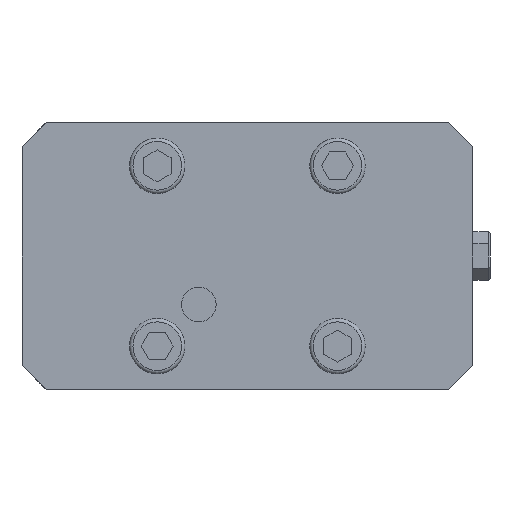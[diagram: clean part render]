
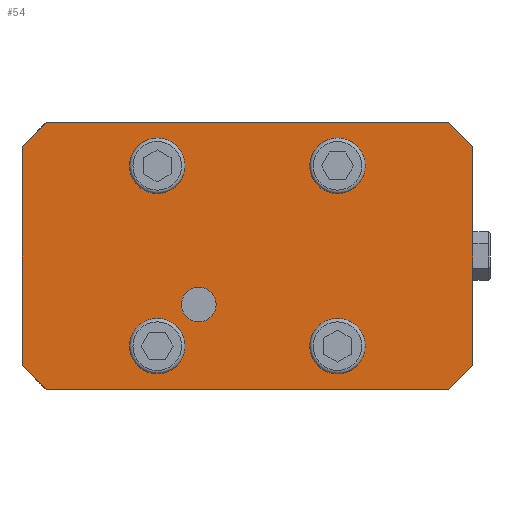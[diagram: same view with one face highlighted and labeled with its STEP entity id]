
A CAD part, front view. The second image highlights one B-rep face of the part: STEP entity #54.
In plain terms, the highlighted planar face has unit normal (0, -1, 0).
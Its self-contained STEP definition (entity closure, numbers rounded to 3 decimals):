
#54 = ADVANCED_FACE ( 'NONE', ( #11470, #10748, #26165, #22100, #25452, #40893 ), #4203, .F. ) ;
#139 = VECTOR ( 'NONE', #11990, 1000. ) ;
#286 = CARTESIAN_POINT ( 'NONE',  ( 26., 0., 26. ) ) ;
#665 = AXIS2_PLACEMENT_3D ( 'NONE', #22298, #33611, #7804 ) ;
#938 = CARTESIAN_POINT ( 'NONE',  ( 58., 0., -38.5 ) ) ;
#950 = LINE ( 'NONE', #22913, #2278 ) ;
#1012 = LINE ( 'NONE', #1742, #24178 ) ;
#1742 = CARTESIAN_POINT ( 'NONE',  ( -65., 0., -38.5 ) ) ;
#2007 = ORIENTED_EDGE ( 'NONE', *, *, #33238, .T. ) ;
#2242 = EDGE_CURVE ( 'NONE', #5586, #5586, #7780, .T. ) ;
#2278 = VECTOR ( 'NONE', #18301, 1000. ) ;
#3170 = AXIS2_PLACEMENT_3D ( 'NONE', #286, #40826, #30208 ) ;
#3189 = CARTESIAN_POINT ( 'NONE',  ( -14., 0., -14. ) ) ;
#3850 = CARTESIAN_POINT ( 'NONE',  ( 26., 0., -20. ) ) ;
#3961 = ORIENTED_EDGE ( 'NONE', *, *, #21288, .F. ) ;
#4203 = PLANE ( 'NONE',  #15996 ) ;
#4691 = DIRECTION ( 'NONE',  ( 0., 1., 0. ) ) ;
#5586 = VERTEX_POINT ( 'NONE', #13310 ) ;
#5761 = CARTESIAN_POINT ( 'NONE',  ( -58., 0., -38.5 ) ) ;
#5845 = CARTESIAN_POINT ( 'NONE',  ( -58., 0., -38.5 ) ) ;
#6061 = CARTESIAN_POINT ( 'NONE',  ( -58., 0., 38.5 ) ) ;
#6200 = EDGE_LOOP ( 'NONE', ( #11321 ) ) ;
#6696 = CARTESIAN_POINT ( 'NONE',  ( -58., 0., 38.5 ) ) ;
#7143 = ORIENTED_EDGE ( 'NONE', *, *, #36930, .T. ) ;
#7189 = CARTESIAN_POINT ( 'NONE',  ( 58., 0., 38.5 ) ) ;
#7780 = CIRCLE ( 'NONE', #3170, 6. ) ;
#7804 = DIRECTION ( 'NONE',  ( 1., 0., 0. ) ) ;
#8229 = EDGE_CURVE ( 'NONE', #19757, #40149, #35315, .T. ) ;
#9449 = VECTOR ( 'NONE', #28120, 1000. ) ;
#9683 = CARTESIAN_POINT ( 'NONE',  ( 65., 0., -38.5 ) ) ;
#9937 = DIRECTION ( 'NONE',  ( 0.707, 0., -0.707 ) ) ;
#10260 = AXIS2_PLACEMENT_3D ( 'NONE', #3189, #17878, #28999 ) ;
#10748 = FACE_BOUND ( 'NONE', #23388, .T. ) ;
#11110 = CARTESIAN_POINT ( 'NONE',  ( -14., 0., -19. ) ) ;
#11321 = ORIENTED_EDGE ( 'NONE', *, *, #19137, .F. ) ;
#11470 = FACE_BOUND ( 'NONE', #33345, .T. ) ;
#11533 = ORIENTED_EDGE ( 'NONE', *, *, #2242, .F. ) ;
#11990 = DIRECTION ( 'NONE',  ( 0., 0., -1. ) ) ;
#12093 = EDGE_CURVE ( 'NONE', #25391, #38704, #13783, .T. ) ;
#12417 = EDGE_CURVE ( 'NONE', #18684, #40149, #29773, .T. ) ;
#12678 = ORIENTED_EDGE ( 'NONE', *, *, #8229, .T. ) ;
#13310 = CARTESIAN_POINT ( 'NONE',  ( 20., 0., 26. ) ) ;
#13783 = LINE ( 'NONE', #43201, #45875 ) ;
#14074 = EDGE_LOOP ( 'NONE', ( #30038 ) ) ;
#14338 = CARTESIAN_POINT ( 'NONE',  ( -65., 0., 31.5 ) ) ;
#14982 = VERTEX_POINT ( 'NONE', #43921 ) ;
#15517 = CARTESIAN_POINT ( 'NONE',  ( -26., 0., 26. ) ) ;
#15716 = VECTOR ( 'NONE', #9937, 1000. ) ;
#15996 = AXIS2_PLACEMENT_3D ( 'NONE', #9683, #4691, #24400 ) ;
#17281 = LINE ( 'NONE', #6696, #9449 ) ;
#17721 = CARTESIAN_POINT ( 'NONE',  ( -65., 0., -31.5 ) ) ;
#17878 = DIRECTION ( 'NONE',  ( 0., -1., 0. ) ) ;
#18301 = DIRECTION ( 'NONE',  ( 0.707, 0., 0.707 ) ) ;
#18684 = VERTEX_POINT ( 'NONE', #938 ) ;
#19137 = EDGE_CURVE ( 'NONE', #32633, #32633, #38901, .T. ) ;
#19757 = VERTEX_POINT ( 'NONE', #17721 ) ;
#19776 = DIRECTION ( 'NONE',  ( 0., 0., 1. ) ) ;
#20939 = EDGE_LOOP ( 'NONE', ( #3961 ) ) ;
#21074 = DIRECTION ( 'NONE',  ( -1., 0., 0. ) ) ;
#21288 = EDGE_CURVE ( 'NONE', #14982, #14982, #21485, .T. ) ;
#21341 = CARTESIAN_POINT ( 'NONE',  ( 65., 0., 38.5 ) ) ;
#21485 = CIRCLE ( 'NONE', #665, 6. ) ;
#22100 = FACE_BOUND ( 'NONE', #20939, .T. ) ;
#22111 = ORIENTED_EDGE ( 'NONE', *, *, #34195, .T. ) ;
#22298 = CARTESIAN_POINT ( 'NONE',  ( -26., 0., -26. ) ) ;
#22845 = LINE ( 'NONE', #30304, #139 ) ;
#22913 = CARTESIAN_POINT ( 'NONE',  ( 65., 0., -31.5 ) ) ;
#22966 = CIRCLE ( 'NONE', #47589, 6. ) ;
#23388 = EDGE_LOOP ( 'NONE', ( #11533 ) ) ;
#23577 = VECTOR ( 'NONE', #25199, 1000. ) ;
#24178 = VECTOR ( 'NONE', #39846, 1000. ) ;
#24222 = AXIS2_PLACEMENT_3D ( 'NONE', #15517, #25897, #37747 ) ;
#24244 = EDGE_CURVE ( 'NONE', #41019, #41019, #43374, .T. ) ;
#24400 = DIRECTION ( 'NONE',  ( 0., 0., 1. ) ) ;
#24736 = ORIENTED_EDGE ( 'NONE', *, *, #12417, .F. ) ;
#25199 = DIRECTION ( 'NONE',  ( -1., 0., 0. ) ) ;
#25391 = VERTEX_POINT ( 'NONE', #44214 ) ;
#25452 = FACE_BOUND ( 'NONE', #6200, .T. ) ;
#25897 = DIRECTION ( 'NONE',  ( 0., -1., 0. ) ) ;
#26165 = FACE_BOUND ( 'NONE', #14074, .T. ) ;
#28120 = DIRECTION ( 'NONE',  ( -0.707, 0., -0.707 ) ) ;
#28640 = VERTEX_POINT ( 'NONE', #6061 ) ;
#28999 = DIRECTION ( 'NONE',  ( 0., 0., -1. ) ) ;
#29560 = VERTEX_POINT ( 'NONE', #14338 ) ;
#29773 = LINE ( 'NONE', #44242, #23577 ) ;
#30038 = ORIENTED_EDGE ( 'NONE', *, *, #36071, .F. ) ;
#30208 = DIRECTION ( 'NONE',  ( -1., 0., 0. ) ) ;
#30259 = EDGE_LOOP ( 'NONE', ( #2007, #33065, #22111, #12678, #24736, #7143, #34618, #46628 ) ) ;
#30304 = CARTESIAN_POINT ( 'NONE',  ( 65., 0., -38.5 ) ) ;
#31871 = CARTESIAN_POINT ( 'NONE',  ( 65., 0., -31.5 ) ) ;
#32622 = VERTEX_POINT ( 'NONE', #31871 ) ;
#32633 = VERTEX_POINT ( 'NONE', #47285 ) ;
#33065 = ORIENTED_EDGE ( 'NONE', *, *, #43583, .T. ) ;
#33238 = EDGE_CURVE ( 'NONE', #38704, #28640, #46876, .T. ) ;
#33318 = DIRECTION ( 'NONE',  ( 0., -1., 0. ) ) ;
#33345 = EDGE_LOOP ( 'NONE', ( #47502 ) ) ;
#33611 = DIRECTION ( 'NONE',  ( 0., -1., 0. ) ) ;
#34195 = EDGE_CURVE ( 'NONE', #29560, #19757, #1012, .T. ) ;
#34618 = ORIENTED_EDGE ( 'NONE', *, *, #35425, .F. ) ;
#35315 = LINE ( 'NONE', #5845, #15716 ) ;
#35425 = EDGE_CURVE ( 'NONE', #25391, #32622, #22845, .T. ) ;
#36071 = EDGE_CURVE ( 'NONE', #44646, #44646, #22966, .T. ) ;
#36930 = EDGE_CURVE ( 'NONE', #18684, #32622, #950, .T. ) ;
#37747 = DIRECTION ( 'NONE',  ( 0., 0., -1. ) ) ;
#38704 = VERTEX_POINT ( 'NONE', #7189 ) ;
#38901 = CIRCLE ( 'NONE', #24222, 6. ) ;
#39613 = CARTESIAN_POINT ( 'NONE',  ( 26., 0., -26. ) ) ;
#39846 = DIRECTION ( 'NONE',  ( 0., 0., -1. ) ) ;
#40149 = VERTEX_POINT ( 'NONE', #5761 ) ;
#40236 = VECTOR ( 'NONE', #21074, 1000. ) ;
#40826 = DIRECTION ( 'NONE',  ( 0., -1., 0. ) ) ;
#40893 = FACE_OUTER_BOUND ( 'NONE', #30259, .T. ) ;
#41019 = VERTEX_POINT ( 'NONE', #11110 ) ;
#43201 = CARTESIAN_POINT ( 'NONE',  ( 65., 0., 31.5 ) ) ;
#43374 = CIRCLE ( 'NONE', #10260, 5. ) ;
#43583 = EDGE_CURVE ( 'NONE', #28640, #29560, #17281, .T. ) ;
#43921 = CARTESIAN_POINT ( 'NONE',  ( -20., 0., -26. ) ) ;
#44214 = CARTESIAN_POINT ( 'NONE',  ( 65., 0., 31.5 ) ) ;
#44242 = CARTESIAN_POINT ( 'NONE',  ( 65., 0., -38.5 ) ) ;
#44646 = VERTEX_POINT ( 'NONE', #3850 ) ;
#45070 = DIRECTION ( 'NONE',  ( -0.707, 0., 0.707 ) ) ;
#45875 = VECTOR ( 'NONE', #45070, 1000. ) ;
#46628 = ORIENTED_EDGE ( 'NONE', *, *, #12093, .T. ) ;
#46876 = LINE ( 'NONE', #21341, #40236 ) ;
#47285 = CARTESIAN_POINT ( 'NONE',  ( -26., 0., 20. ) ) ;
#47502 = ORIENTED_EDGE ( 'NONE', *, *, #24244, .F. ) ;
#47589 = AXIS2_PLACEMENT_3D ( 'NONE', #39613, #33318, #19776 ) ;
